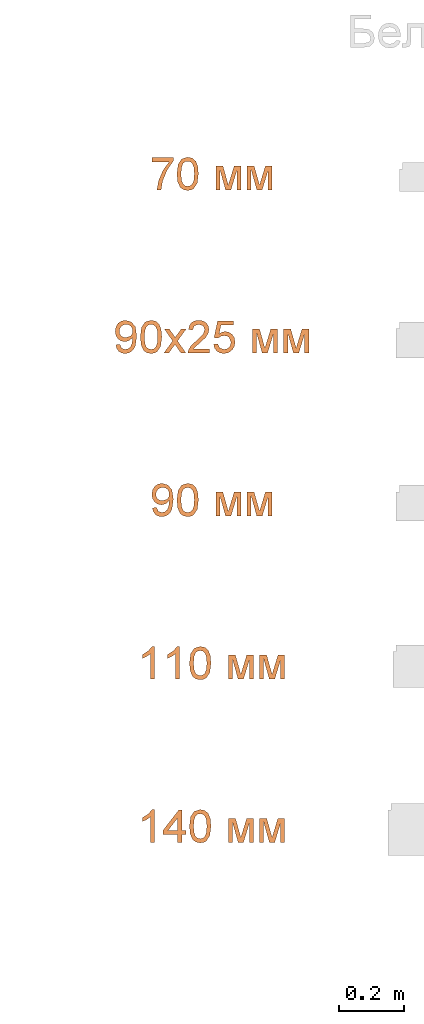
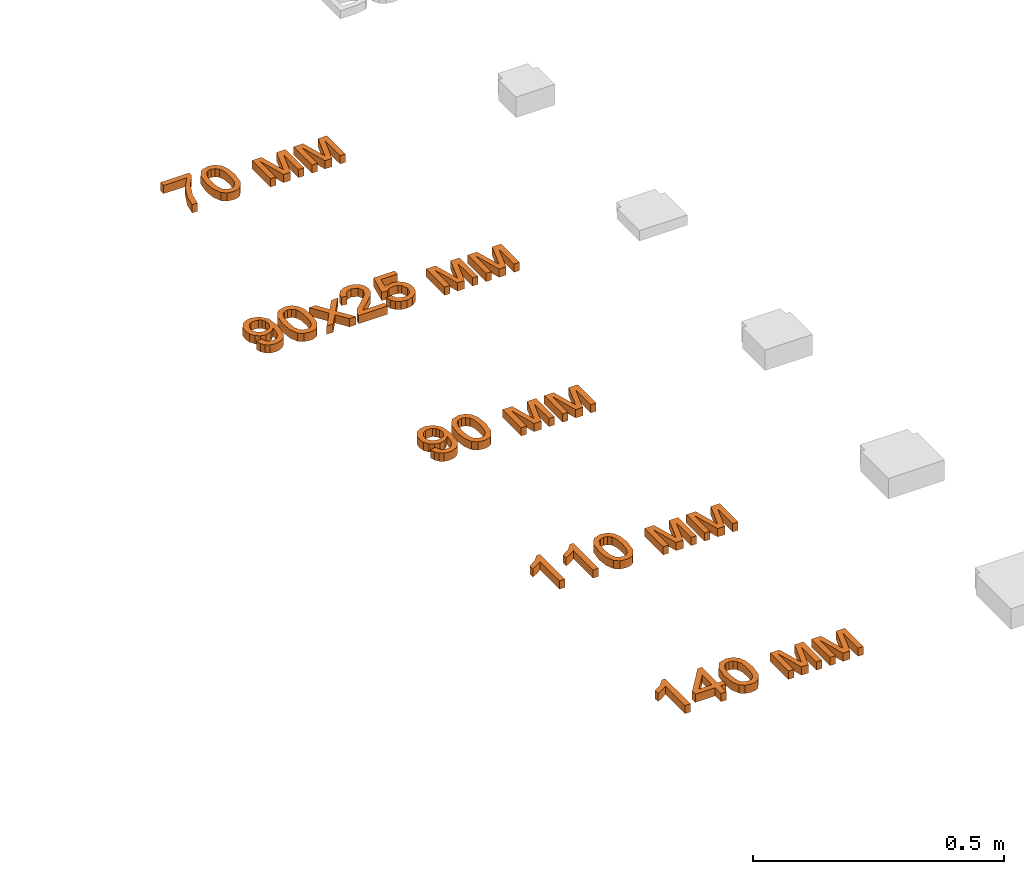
# One storey, part 36 of 87: 5 proxies.
"""IFC2X3 building model written with IfcOpenShell, lengths in millimetres."""

from ifc_helpers import new_model, entity, si_unit, converted_unit, derived_unit, direction, frame, origin, place, context, subcontext, project, spatial, polyline, outline, extrude, element, save


model = new_model("IFC2X3")

# Units and contexts
model_context = context("Model", 3, precision=0.01, world=origin(), true_north=direction((6.12303176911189e-17, 1.0)))
body_context = subcontext(model_context, "Body", "Model", "MODEL_VIEW")
ifc_project = project(units=[si_unit("LENGTHUNIT", "METRE", prefix="MILLI"), si_unit("AREAUNIT", "SQUARE_METRE"), si_unit("VOLUMEUNIT", "CUBIC_METRE"), converted_unit("PLANEANGLEUNIT", "DEGREE", entity("IfcRatioMeasure", 0.0174532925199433), si_unit("PLANEANGLEUNIT", "RADIAN"), dimensions=[0, 0, 0, 0, 0, 0, 0]), si_unit("MASSUNIT", "GRAM", prefix="KILO"), derived_unit("MASSDENSITYUNIT", [(si_unit("MASSUNIT", "GRAM", prefix="KILO"), 1), (si_unit("LENGTHUNIT", "METRE"), -3)]), si_unit("TIMEUNIT", "SECOND"), si_unit("FREQUENCYUNIT", "HERTZ"), si_unit("THERMODYNAMICTEMPERATUREUNIT", "DEGREE_CELSIUS"), derived_unit("THERMALTRANSMITTANCEUNIT", [(si_unit("MASSUNIT", "GRAM", prefix="KILO"), 1), (si_unit("THERMODYNAMICTEMPERATUREUNIT", "KELVIN"), -1), (si_unit("TIMEUNIT", "SECOND"), -3)]), derived_unit("VOLUMETRICFLOWRATEUNIT", [(si_unit("LENGTHUNIT", "METRE"), 3), (si_unit("TIMEUNIT", "SECOND"), -1)]), si_unit("ELECTRICCURRENTUNIT", "AMPERE"), si_unit("ELECTRICVOLTAGEUNIT", "VOLT"), si_unit("POWERUNIT", "WATT"), si_unit("FORCEUNIT", "NEWTON", prefix="KILO"), si_unit("ILLUMINANCEUNIT", "LUX"), si_unit("LUMINOUSFLUXUNIT", "LUMEN"), si_unit("LUMINOUSINTENSITYUNIT", "CANDELA"), derived_unit("USERDEFINED", [(si_unit("MASSUNIT", "GRAM", prefix="KILO"), -1), (si_unit("LENGTHUNIT", "METRE"), -2), (si_unit("TIMEUNIT", "SECOND"), 3), (si_unit("LUMINOUSFLUXUNIT", "LUMEN"), 1)]), derived_unit("LINEARVELOCITYUNIT", [(si_unit("LENGTHUNIT", "METRE"), 1), (si_unit("TIMEUNIT", "SECOND"), -1)]), si_unit("PRESSUREUNIT", "PASCAL"), derived_unit("USERDEFINED", [(si_unit("LENGTHUNIT", "METRE"), -2), (si_unit("MASSUNIT", "GRAM", prefix="KILO"), 1), (si_unit("TIMEUNIT", "SECOND"), -2)])], contexts=[model_context])

# Site, building, storey
site_placement = place(None, origin())
site = spatial("IfcSite", under=ifc_project, at=site_placement, Name="Default", CompositionType="ELEMENT")
building_placement = place(site_placement, origin())
building = spatial("IfcBuilding", under=site, at=building_placement, Name="Наименование здания", CompositionType="ELEMENT")
storey_placement = place(building_placement, origin())
storey = spatial("IfcBuildingStorey", under=building, at=storey_placement, Name="Этаж 01", CompositionType="ELEMENT", Elevation=0.0)

# Proxies
proxy_1_placement = place(storey_placement, origin())
element("IfcBuildingElementProxy", 1, at=proxy_1_placement, inside=storey, Name="Текст модели:100 мм Arial", ObjectType="Текст модели:100 мм Arial", context=body_context, shape_type="SweptSolid", body=[
    extrude(outline(polyline([(-33.1249866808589, -28.4339338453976), (-33.1249866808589, -40.9909726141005), (32.7994668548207, -40.9909726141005), (32.7994668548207, -30.8374295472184), (14.0987987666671, -3.82262836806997), (-0.211810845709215, 30.5988636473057), (-4.87164945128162, 57.8957076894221), (-17.4286882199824, 57.8957076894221), (-12.4377558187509, 29.568794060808), (1.25971713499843, -2.44920225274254), (20.2424280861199, -28.4339338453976), (-33.1249866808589, -28.4339338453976)])), frame((12235.1846956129, -21608.5531781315, 0.0), z_axis=(0.0, 0.0, -1.0), x_axis=(1.0, 0.0, 0.0)), (0.0, 0.0, -1.0), 20.0),
    extrude(outline(polyline([(-7.02884310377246, -33.3490673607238), (17.5323805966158, -33.3490673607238), (35.1984171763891, -27.6137612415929), (43.3439841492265, -18.487651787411), (47.0516941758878, -5.75150665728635), (46.7162020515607, 4.48638208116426), (43.4465778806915, 13.0955287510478), (27.9444305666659, 25.6659118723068), (-0.314338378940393, 32.2325535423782), (-24.0296505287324, 32.3678288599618), (-39.4143020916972, 28.0260881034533), (-49.7293680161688, 18.9002174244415), (-54.4436715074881, 4.63998875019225), (-50.8676582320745, -14.130105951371), (-35.4058547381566, -26.733339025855), (-7.02884310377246, -33.3490673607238)]), holes=[polyline([(-5.77428774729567, -20.8548320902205), (-25.015764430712, -17.3562860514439), (-36.7257089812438, -11.5717922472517), (-41.096258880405, -4.77599682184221), (-41.9669219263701, 3.21464792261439), (-39.2244253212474, 11.2791292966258), (-32.8654063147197, 17.2229259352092), (-20.9698370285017, 20.2947501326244), (-1.61768958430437, 19.7433141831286), (17.8514140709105, 16.2707701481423), (28.7803640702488, 10.7141596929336), (33.5546988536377, 3.61815959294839), (34.5599568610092, -4.47255337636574), (31.9421230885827, -12.1923199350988), (25.8471825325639, -18.1754808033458), (14.0250679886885, -21.402747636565), (-5.77428774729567, -20.8548320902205)])]), frame((12312.8631089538, -21620.6257088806, 0.0), z_axis=(0.0, 0.0, 1.0), x_axis=(0.101851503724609, -0.994799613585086, 0.0)), (0.0, 0.0, 1.0), 20.0),
    extrude(outline(polyline([(-40.5839870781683, -38.4502715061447), (33.1886156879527, -38.4502715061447), (33.1886156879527, -25.893232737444), (-29.0570178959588, -25.893232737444), (33.1886156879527, -8.6273044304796), (33.1886156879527, 7.85380895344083), (-26.2120637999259, 25.9045521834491), (33.1886156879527, 25.9045521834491), (33.1886156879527, 38.4615909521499), (-40.5839870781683, 38.4615909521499), (-40.5839870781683, 17.7620973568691), (18.4733358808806, -0.190544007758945), (-40.5839870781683, -16.8433356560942), (-40.5839870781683, -38.4502715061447)])), frame((12436.7137111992, -21633.260270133, 0.0), z_axis=(0.0, 0.0, 1.0), x_axis=(0.0, -1.0, 0.0)), (0.0, 0.0, 1.0), 20.0),
    extrude(outline(polyline([(-40.5839870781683, -38.4502715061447), (33.1886156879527, -38.4502715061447), (33.1886156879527, -25.893232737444), (-29.0570178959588, -25.893232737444), (33.1886156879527, -8.6273044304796), (33.1886156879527, 7.85380895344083), (-26.2120637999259, 25.904552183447), (33.1886156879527, 25.904552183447), (33.1886156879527, 38.4615909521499), (-40.5839870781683, 38.4615909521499), (-40.5839870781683, 17.7620973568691), (18.4733358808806, -0.190544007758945), (-40.5839870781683, -16.8433356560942), (-40.5839870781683, -38.4502715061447)])), frame((12532.4611318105, -21633.260270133, 0.0), z_axis=(0.0, 0.0, 1.0), x_axis=(0.0, -1.0, 0.0)), (0.0, 0.0, 1.0), 20.0),
])
proxy_2_placement = place(storey_placement, origin())
element("IfcBuildingElementProxy", 2, at=proxy_2_placement, inside=storey, Name="Текст модели:100 мм Arial", ObjectType="Текст модели:100 мм Arial", context=body_context, shape_type="SweptSolid", body=[
    extrude(outline(polyline([(5.58296908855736, -31.785950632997), (17.2387167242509, -31.785950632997), (26.9216142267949, -28.1739915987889), (34.2072820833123, -21.2554963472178), (38.6713407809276, -11.3358876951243), (39.9245387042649, -0.903731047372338), (37.9450282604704, 8.92661895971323), (32.7793953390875, 17.8190246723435), (24.4742258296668, 25.4373484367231), (-3.90517077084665, 37.3659164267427), (-32.1440557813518, 40.5619140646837), (-49.7769073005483, 32.5319597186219), (-59.4683269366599, 16.6032994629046), (-60.4499889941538, 4.02951589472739), (-56.4016296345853, -7.53444362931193), (-47.83625888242, -16.802666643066), (-35.2668867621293, -22.4892406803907), (-21.9841856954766, -23.8222776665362), (-10.3310965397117, -20.283271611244), (-1.40106329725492, -12.8047998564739), (3.71247002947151, -2.31943974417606), (3.73902096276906, 11.9281903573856), (-2.85997612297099, 24.0883984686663), (-0.471643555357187, 23.5260231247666), (13.1334133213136, 18.0099957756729), (22.615889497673, 11.2224941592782), (27.007982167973, 2.91452909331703), (26.6924060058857, -7.52395807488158), (20.3410079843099, -16.8945474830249), (7.30988926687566, -19.2495752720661), (5.58296908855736, -31.785950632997)]), holes=[polyline([(-21.7672208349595, 29.1433710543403), (-13.9803799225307, 25.592244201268), (-8.91107638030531, 19.8291378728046), (-7.4746457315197, 4.45415101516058), (-10.9717321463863, -3.43916536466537), (-16.5473789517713, -8.7331221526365), (-23.575813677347, -11.1761402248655), (-31.4312638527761, -10.5166404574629), (-39.4119601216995, -6.85973803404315), (-44.9206699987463, -0.81731230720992), (-47.5297596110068, 6.83624740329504), (-46.8115950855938, 15.3265517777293), (-43.3781823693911, 22.7799280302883), (-37.714836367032, 27.7965691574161), (-30.3387761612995, 30.0324064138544), (-21.7672208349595, 29.1433710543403)])]), frame((12120.666226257, -22127.7314518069, 0.0), z_axis=(0.0, 0.0, 1.0), x_axis=(0.258284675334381, -0.966068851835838, 0.0)), (0.0, 0.0, 1.0), 20.0),
    extrude(outline(polyline([(-7.02884310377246, -33.3490673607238), (17.5323805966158, -33.3490673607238), (35.1984171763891, -27.6137612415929), (43.3439841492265, -18.487651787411), (47.0516941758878, -5.75150665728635), (46.7162020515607, 4.48638208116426), (43.4465778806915, 13.0955287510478), (27.9444305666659, 25.6659118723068), (-0.314338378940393, 32.2325535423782), (-24.0296505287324, 32.3678288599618), (-39.4143020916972, 28.0260881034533), (-49.7293680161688, 18.9002174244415), (-54.4436715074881, 4.63998875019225), (-50.8676582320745, -14.130105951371), (-35.4058547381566, -26.733339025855), (-7.02884310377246, -33.3490673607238)]), holes=[polyline([(-5.77428774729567, -20.8548320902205), (-25.015764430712, -17.3562860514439), (-36.7257089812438, -11.5717922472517), (-41.096258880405, -4.77599682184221), (-41.9669219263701, 3.21464792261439), (-39.2244253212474, 11.2791292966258), (-32.8654063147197, 17.2229259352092), (-20.9698370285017, 20.2947501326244), (-1.61768958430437, 19.7433141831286), (17.8514140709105, 16.2707701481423), (28.7803640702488, 10.7141596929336), (33.5546988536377, 3.61815959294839), (34.5599568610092, -4.47255337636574), (31.9421230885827, -12.1923199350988), (25.8471825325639, -18.1754808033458), (14.0250679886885, -21.402747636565), (-5.77428774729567, -20.8548320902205)])]), frame((12200.6345749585, -22120.6257088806, 0.0), z_axis=(0.0, 0.0, 1.0), x_axis=(0.101851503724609, -0.994799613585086, 0.0)), (0.0, 0.0, 1.0), 20.0),
    extrude(outline(polyline([(-34.530221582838, -38.4265006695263), (-19.422534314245, -38.4265006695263), (-0.341721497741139, -12.061624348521), (2.47870713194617, -16.1328517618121), (17.8561745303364, -38.4265006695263), (32.9638617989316, -38.4265006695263), (7.40832586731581, -1.34399555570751), (33.944880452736, 35.3461020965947), (18.8371931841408, 35.3461020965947), (4.95577923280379, 16.1671874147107), (0.0261604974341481, 9.34910777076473), (-5.66374769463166, 17.6877663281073), (-17.8529044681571, 35.3461020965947), (-32.9605917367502, 35.3461020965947), (-7.6993614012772, -1.34399555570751), (-34.530221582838, -38.4265006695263)])), frame((12273.476231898, -22128.0223851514, 0.0)), (0.0, 0.0, 1.0), 20.0),
    extrude(outline(polyline([(-32.385878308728, -45.1669477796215), (-32.385878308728, -57.7239865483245), (33.5385752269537, -57.7239865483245), (32.1896745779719, -49.0664969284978), (24.5622545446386, -35.7369059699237), (8.84143061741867, -21.1810416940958), (-12.8390816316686, -0.260818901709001), (-18.2592096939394, 13.9639515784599), (-13.1456499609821, 25.4786580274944), (0.208466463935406, 30.1752848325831), (14.1266686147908, 25.5890226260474), (19.4119066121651, 12.9093565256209), (31.9689453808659, 14.4789863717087), (28.9247218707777, 26.6252235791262), (22.3426998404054, 35.4973110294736), (12.5662358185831, 40.9235704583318), (-0.0613136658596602, 42.732323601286), (-12.7808336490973, 40.721235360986), (-22.5389035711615, 34.6879706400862), (-28.746912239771, 25.6748617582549), (-30.8162484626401, 14.7242410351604), (-28.5844310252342, 2.81712712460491), (-21.1654774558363, -9.49465698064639), (-3.1760478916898, -26.6992716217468), (11.2694517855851, -38.7780637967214), (16.9348345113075, -45.1669477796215), (-32.385878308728, -45.1669477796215)])), frame((12346.2571883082, -22108.7248992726, 0.0), z_axis=(0.0, 0.0, -1.0), x_axis=(-1.0, 0.0, 0.0)), (0.0, 0.0, -1.0), 20.0),
    extrude(outline(polyline([(3.81439562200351, -37.2548959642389), (15.7323946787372, -37.2548959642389), (26.1588137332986, -33.0579698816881), (34.2921694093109, -25.0537205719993), (39.3309783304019, -13.631750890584), (40.221928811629, 1.43409098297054), (34.3991305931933, 14.6815107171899), (25.5350217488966, 23.1481891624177), (13.9054384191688, 28.2770976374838), (0.912111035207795, 29.4702838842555), (-10.7159258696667, 25.7768606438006), (-19.7427074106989, 18.0989984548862), (-24.9322687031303, 7.33886785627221), (-25.5937300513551, -2.21124798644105), (-22.63702408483, -12.2793380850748), (-47.9924930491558, 0.0204883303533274), (-38.0977082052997, 37.2324069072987), (-50.2330599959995, 40.4592412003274), (-62.7370428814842, -6.56524698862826), (-15.502196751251, -30.4943712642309), (-10.7584434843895, -18.7623737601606), (-14.4216298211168, -10.492232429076), (-13.6981616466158, 0.722667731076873), (-9.98738154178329, 9.35727561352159), (-4.32553373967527, 14.6878856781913), (11.4370636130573, 15.9400687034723), (19.7481682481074, 12.2772427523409), (25.4355726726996, 6.40632241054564), (28.0665145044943, -1.27212018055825), (27.2082313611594, -10.357512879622), (19.6530635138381, -21.9256319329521), (5.52431094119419, -24.7161898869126), (3.81439562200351, -37.2548959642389)])), frame((12426.2237167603, -22126.5053317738, 0.0), z_axis=(0.0, 0.0, 1.0), x_axis=(0.256974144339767, -0.966418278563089, 0.0)), (0.0, 0.0, 1.0), 20.0),
    extrude(outline(polyline([(-40.5839870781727, -38.4502715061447), (33.1886156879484, -38.4502715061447), (33.1886156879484, -25.8932327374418), (-29.0570178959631, -25.8932327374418), (33.1886156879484, -8.6273044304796), (33.1886156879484, 7.85380895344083), (-26.2120637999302, 25.9045521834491), (33.1886156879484, 25.9045521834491), (33.1886156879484, 38.4615909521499), (-40.5839870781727, 38.4615909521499), (-40.5839870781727, 17.7620973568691), (18.4733358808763, -0.190544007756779), (-40.5839870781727, -16.8433356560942), (-40.5839870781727, -38.4502715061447)])), frame((12548.9422451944, -22133.260270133, 0.0), z_axis=(0.0, 0.0, 1.0), x_axis=(0.0, -1.0, 0.0)), (0.0, 0.0, 1.0), 20.0),
    extrude(outline(polyline([(-40.5839870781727, -38.4502715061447), (33.1886156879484, -38.4502715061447), (33.1886156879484, -25.893232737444), (-29.0570178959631, -25.893232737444), (33.1886156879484, -8.6273044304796), (33.1886156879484, 7.85380895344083), (-26.2120637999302, 25.9045521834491), (33.1886156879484, 25.9045521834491), (33.1886156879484, 38.4615909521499), (-40.5839870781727, 38.4615909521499), (-40.5839870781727, 17.7620973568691), (18.4733358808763, -0.190544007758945), (-40.5839870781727, -16.8433356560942), (-40.5839870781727, -38.4502715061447)])), frame((12644.6896658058, -22133.260270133, 0.0), z_axis=(0.0, 0.0, 1.0), x_axis=(0.0, -1.0, 0.0)), (0.0, 0.0, 1.0), 20.0),
])
proxy_3_placement = place(storey_placement, origin())
element("IfcBuildingElementProxy", 3, at=proxy_3_placement, inside=storey, Name="Текст модели:100 мм Arial", ObjectType="Текст модели:100 мм Arial", context=body_context, shape_type="SweptSolid", body=[
    extrude(outline(polyline([(5.58296908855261, -31.785950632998), (17.2387167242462, -31.785950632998), (26.9216142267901, -28.1739915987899), (34.2072820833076, -21.2554963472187), (38.6713407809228, -11.3358876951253), (39.9245387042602, -0.903731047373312), (37.9450282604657, 8.92661895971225), (32.7793953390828, 17.8190246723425), (24.4742258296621, 25.4373484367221), (-3.90517077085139, 37.3659164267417), (-32.1440557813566, 40.5619140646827), (-49.776907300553, 32.5319597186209), (-59.4683269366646, 16.6032994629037), (-60.4499889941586, 4.02951589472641), (-56.40162963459, -7.5344436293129), (-47.8362588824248, -16.802666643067), (-35.2668867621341, -22.4892406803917), (-21.9841856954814, -23.8222776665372), (-10.3310965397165, -20.283271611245), (-1.40106329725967, -12.8047998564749), (3.71247002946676, -2.31943974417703), (3.73902096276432, 11.9281903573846), (-2.85997612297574, 24.0883984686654), (-0.471643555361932, 23.5260231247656), (13.1334133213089, 18.0099957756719), (22.6158894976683, 11.2224941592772), (27.0079821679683, 2.91452909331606), (26.692406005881, -7.52395807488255), (20.3410079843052, -16.8945474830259), (7.30988926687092, -19.2495752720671), (5.58296908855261, -31.785950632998)]), holes=[polyline([(-21.7672208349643, 29.1433710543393), (-13.9803799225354, 25.592244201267), (-8.91107638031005, 19.8291378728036), (-7.47464573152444, 4.4541510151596), (-10.9717321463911, -3.43916536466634), (-16.5473789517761, -8.73312215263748), (-23.5758136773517, -11.1761402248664), (-31.4312638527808, -10.5166404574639), (-39.4119601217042, -6.85973803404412), (-44.920669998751, -0.817312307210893), (-47.5297596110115, 6.83624740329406), (-46.8115950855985, 15.3265517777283), (-43.3781823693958, 22.7799280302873), (-37.7148363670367, 27.7965691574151), (-30.3387761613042, 30.0324064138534), (-21.7672208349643, 29.1433710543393)])]), frame((12232.8947602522, -22627.7314518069, 0.0), z_axis=(0.0, 0.0, 1.0), x_axis=(0.258284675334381, -0.966068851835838, 0.0)), (0.0, 0.0, 1.0), 20.0),
    extrude(outline(polyline([(-7.02884310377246, -33.3490673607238), (17.5323805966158, -33.3490673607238), (35.1984171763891, -27.6137612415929), (43.3439841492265, -18.487651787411), (47.0516941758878, -5.75150665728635), (46.7162020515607, 4.48638208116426), (43.4465778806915, 13.0955287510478), (27.9444305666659, 25.6659118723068), (-0.314338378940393, 32.2325535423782), (-24.0296505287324, 32.3678288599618), (-39.4143020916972, 28.0260881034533), (-49.7293680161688, 18.9002174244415), (-54.4436715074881, 4.63998875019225), (-50.8676582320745, -14.130105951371), (-35.4058547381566, -26.733339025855), (-7.02884310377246, -33.3490673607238)]), holes=[polyline([(-5.77428774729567, -20.8548320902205), (-25.015764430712, -17.3562860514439), (-36.7257089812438, -11.5717922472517), (-41.096258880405, -4.77599682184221), (-41.9669219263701, 3.21464792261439), (-39.2244253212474, 11.2791292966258), (-32.8654063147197, 17.2229259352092), (-20.9698370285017, 20.2947501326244), (-1.61768958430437, 19.7433141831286), (17.8514140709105, 16.2707701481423), (28.7803640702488, 10.7141596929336), (33.5546988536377, 3.61815959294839), (34.5599568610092, -4.47255337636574), (31.9421230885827, -12.1923199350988), (25.8471825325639, -18.1754808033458), (14.0250679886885, -21.402747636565), (-5.77428774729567, -20.8548320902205)])]), frame((12312.8631089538, -22620.6257088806, 0.0), z_axis=(0.0, 0.0, 1.0), x_axis=(0.101851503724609, -0.994799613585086, 0.0)), (0.0, 0.0, 1.0), 20.0),
    extrude(outline(polyline([(-40.5839870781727, -38.4502715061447), (33.1886156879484, -38.4502715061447), (33.1886156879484, -25.893232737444), (-29.0570178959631, -25.893232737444), (33.1886156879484, -8.6273044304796), (33.1886156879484, 7.85380895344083), (-26.2120637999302, 25.9045521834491), (33.1886156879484, 25.9045521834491), (33.1886156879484, 38.4615909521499), (-40.5839870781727, 38.4615909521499), (-40.5839870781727, 17.7620973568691), (18.4733358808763, -0.190544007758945), (-40.5839870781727, -16.8433356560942), (-40.5839870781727, -38.4502715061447)])), frame((12436.7137111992, -22633.260270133, 0.0), z_axis=(0.0, 0.0, 1.0), x_axis=(0.0, -1.0, 0.0)), (0.0, 0.0, 1.0), 20.0),
    extrude(outline(polyline([(-40.5839870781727, -38.4502715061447), (33.1886156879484, -38.4502715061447), (33.1886156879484, -25.893232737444), (-29.0570178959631, -25.893232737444), (33.1886156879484, -8.6273044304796), (33.1886156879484, 7.85380895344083), (-26.2120637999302, 25.904552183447), (33.1886156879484, 25.904552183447), (33.1886156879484, 38.4615909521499), (-40.5839870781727, 38.4615909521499), (-40.5839870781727, 17.7620973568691), (18.4733358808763, -0.190544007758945), (-40.5839870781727, -16.8433356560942), (-40.5839870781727, -38.4502715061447)])), frame((12532.4611318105, -22633.260270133, 0.0), z_axis=(0.0, 0.0, 1.0), x_axis=(0.0, -1.0, 0.0)), (0.0, 0.0, 1.0), 20.0),
])
proxy_4_placement = place(storey_placement, origin())
element("IfcBuildingElementProxy", 4, at=proxy_4_placement, inside=storey, Name="Текст модели:100 мм Arial", ObjectType="Текст модели:100 мм Arial", context=body_context, shape_type="SweptSolid", body=[
    extrude(outline(polyline([(-63.8793021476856, -16.9184842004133), (36.5770080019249, -16.9184842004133), (36.5770080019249, -8.82508030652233), (23.2106288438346, 2.34626961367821), (11.4629304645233, 20.7526321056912), (-0.407395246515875, 20.7526321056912), (5.93243780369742, 7.53340574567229), (14.4059864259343, -4.36144543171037), (-63.8793021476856, -4.36144543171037), (-63.8793021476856, -16.9184842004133)])), frame((12193.7741888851, -23102.5695836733, 0.0), z_axis=(0.0, 0.0, 1.0), x_axis=(0.0, 1.0, 0.0)), (0.0, 0.0, 1.0), 20.0),
    extrude(outline(polyline([(-63.8793021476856, -16.9184842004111), (36.5770080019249, -16.9184842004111), (36.5770080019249, -8.82508030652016), (23.2106288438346, 2.34626961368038), (11.4629304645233, 20.7526321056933), (-0.407395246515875, 20.7526321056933), (5.93243780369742, 7.53340574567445), (14.4059864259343, -4.3614454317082), (-63.8793021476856, -4.3614454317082), (-63.8793021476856, -16.9184842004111)])), frame((12270.6860513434, -23102.5695836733, 0.0), z_axis=(0.0, 0.0, 1.0), x_axis=(0.0, 1.0, 0.0)), (0.0, 0.0, 1.0), 20.0),
    extrude(outline(polyline([(-7.02884310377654, -33.3490673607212), (17.5323805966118, -33.3490673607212), (35.198417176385, -27.6137612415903), (43.3439841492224, -18.4876517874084), (47.0516941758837, -5.75150665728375), (46.7162020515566, 4.48638208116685), (43.4465778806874, 13.0955287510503), (27.9444305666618, 25.6659118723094), (-0.314338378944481, 32.2325535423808), (-24.0296505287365, 32.3678288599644), (-39.4143020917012, 28.0260881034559), (-49.7293680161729, 18.900217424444), (-54.4436715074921, 4.63998875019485), (-50.8676582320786, -14.1301059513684), (-35.4058547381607, -26.7333390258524), (-7.02884310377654, -33.3490673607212)]), holes=[polyline([(-5.77428774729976, -20.8548320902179), (-25.0157644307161, -17.3562860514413), (-36.7257089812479, -11.5717922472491), (-41.0962588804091, -4.77599682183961), (-41.9669219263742, 3.21464792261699), (-39.2244253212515, 11.2791292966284), (-32.8654063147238, 17.2229259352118), (-20.9698370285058, 20.294750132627), (-1.61768958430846, 19.7433141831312), (17.8514140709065, 16.2707701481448), (28.7803640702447, 10.7141596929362), (33.5546988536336, 3.61815959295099), (34.5599568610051, -4.47255337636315), (31.9421230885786, -12.1923199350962), (25.8471825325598, -18.1754808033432), (14.0250679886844, -21.4027476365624), (-5.77428774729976, -20.8548320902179)])]), frame((12351.3190401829, -23120.6257088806, 0.0), z_axis=(0.0, 0.0, 1.0), x_axis=(0.101851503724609, -0.994799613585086, 0.0)), (0.0, 0.0, 1.0), 20.0),
    extrude(outline(polyline([(-40.5839870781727, -38.4502715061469), (33.1886156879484, -38.4502715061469), (33.1886156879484, -25.8932327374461), (-29.0570178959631, -25.8932327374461), (33.1886156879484, -8.62730443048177), (33.1886156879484, 7.85380895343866), (-26.2120637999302, 25.904552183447), (33.1886156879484, 25.904552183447), (33.1886156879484, 38.4615909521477), (-40.5839870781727, 38.4615909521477), (-40.5839870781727, 17.762097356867), (18.4733358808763, -0.19054400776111), (-40.5839870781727, -16.8433356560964), (-40.5839870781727, -38.4502715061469)])), frame((12475.1696424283, -23133.260270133, 0.0), z_axis=(0.0, 0.0, 1.0), x_axis=(0.0, -1.0, 0.0)), (0.0, 0.0, 1.0), 20.0),
    extrude(outline(polyline([(-40.5839870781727, -38.4502715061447), (33.1886156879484, -38.4502715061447), (33.1886156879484, -25.893232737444), (-29.0570178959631, -25.893232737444), (33.1886156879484, -8.6273044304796), (33.1886156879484, 7.85380895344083), (-26.2120637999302, 25.9045521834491), (33.1886156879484, 25.9045521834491), (33.1886156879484, 38.4615909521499), (-40.5839870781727, 38.4615909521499), (-40.5839870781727, 17.7620973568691), (18.4733358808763, -0.190544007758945), (-40.5839870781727, -16.8433356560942), (-40.5839870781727, -38.4502715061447)])), frame((12570.9170630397, -23133.260270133, 0.0), z_axis=(0.0, 0.0, 1.0), x_axis=(0.0, -1.0, 0.0)), (0.0, 0.0, 1.0), 20.0),
])
proxy_5_placement = place(storey_placement, origin())
element("IfcBuildingElementProxy", 5, at=proxy_5_placement, inside=storey, Name="Текст модели:100 мм Arial", ObjectType="Текст модели:100 мм Arial", context=body_context, shape_type="SweptSolid", body=[
    extrude(outline(polyline([(-63.8793021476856, -16.9184842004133), (36.5770080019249, -16.9184842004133), (36.5770080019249, -8.82508030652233), (23.2106288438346, 2.34626961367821), (11.4629304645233, 20.7526321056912), (-0.407395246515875, 20.7526321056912), (5.93243780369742, 7.53340574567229), (14.4059864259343, -4.36144543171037), (-63.8793021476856, -4.36144543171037), (-63.8793021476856, -16.9184842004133)])), frame((12193.7741888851, -23602.5695836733, 0.0), z_axis=(0.0, 0.0, 1.0), x_axis=(0.0, 1.0, 0.0)), (0.0, 0.0, 1.0), 20.0),
    extrude(outline(polyline([(-1.14154897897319, -36.3868737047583), (11.4154897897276, -36.3868737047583), (11.4154897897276, -12.8424260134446), (23.9725285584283, -12.8424260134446), (23.9725285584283, -0.285387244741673), (11.4154897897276, -0.285387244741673), (11.4154897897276, 62.4998065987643), (1.99771071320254, 62.4998065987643), (-46.6608145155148, -0.285387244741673), (-46.6608145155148, -12.8424260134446), (-1.14154897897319, -12.8424260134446), (-1.14154897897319, -36.3868737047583)]), holes=[polyline([(-1.14154897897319, -0.285387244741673), (-31.20977071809, -0.285387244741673), (-1.14154897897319, 38.5139005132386), (-1.14154897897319, -0.285387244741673)])]), frame((12282.4675651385, -23630.0620121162, 0.0)), (0.0, 0.0, 1.0), 20.0),
    extrude(outline(polyline([(-7.02884310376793, -33.3490673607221), (17.5323805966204, -33.3490673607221), (35.1984171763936, -27.6137612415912), (43.343984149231, -18.4876517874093), (47.0516941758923, -5.75150665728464), (46.7162020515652, 4.48638208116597), (43.446577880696, 13.0955287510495), (27.9444305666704, 25.6659118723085), (-0.314338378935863, 32.2325535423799), (-24.0296505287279, 32.3678288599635), (-39.4143020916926, 28.026088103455), (-49.7293680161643, 18.9002174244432), (-54.4436715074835, 4.63998875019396), (-50.8676582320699, -14.1301059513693), (-35.4058547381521, -26.7333390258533), (-7.02884310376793, -33.3490673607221)]), holes=[polyline([(-5.77428774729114, -20.8548320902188), (-25.0157644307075, -17.3562860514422), (-36.7257089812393, -11.57179224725), (-41.0962588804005, -4.77599682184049), (-41.9669219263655, 3.21464792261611), (-39.2244253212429, 11.2791292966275), (-32.8654063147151, 17.2229259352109), (-20.9698370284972, 20.2947501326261), (-1.61768958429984, 19.7433141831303), (17.8514140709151, 16.270770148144), (28.7803640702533, 10.7141596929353), (33.5546988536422, 3.61815959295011), (34.5599568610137, -4.47255337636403), (31.9421230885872, -12.1923199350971), (25.8471825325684, -18.1754808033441), (14.025067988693, -21.4027476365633), (-5.77428774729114, -20.8548320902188)])]), frame((12351.3190401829, -23620.6257088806, 0.0), z_axis=(0.0, 0.0, 1.0), x_axis=(0.101851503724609, -0.994799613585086, 0.0)), (0.0, 0.0, 1.0), 20.0),
    extrude(outline(polyline([(-40.5839870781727, -38.4502715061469), (33.1886156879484, -38.4502715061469), (33.1886156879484, -25.8932327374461), (-29.0570178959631, -25.8932327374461), (33.1886156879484, -8.62730443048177), (33.1886156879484, 7.85380895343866), (-26.2120637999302, 25.904552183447), (33.1886156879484, 25.904552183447), (33.1886156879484, 38.4615909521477), (-40.5839870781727, 38.4615909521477), (-40.5839870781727, 17.762097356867), (18.4733358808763, -0.19054400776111), (-40.5839870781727, -16.8433356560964), (-40.5839870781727, -38.4502715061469)])), frame((12475.1696424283, -23633.260270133, 0.0), z_axis=(0.0, 0.0, 1.0), x_axis=(0.0, -1.0, 0.0)), (0.0, 0.0, 1.0), 20.0),
    extrude(outline(polyline([(-40.5839870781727, -38.4502715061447), (33.1886156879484, -38.4502715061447), (33.1886156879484, -25.893232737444), (-29.0570178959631, -25.893232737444), (33.1886156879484, -8.6273044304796), (33.1886156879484, 7.85380895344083), (-26.2120637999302, 25.9045521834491), (33.1886156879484, 25.9045521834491), (33.1886156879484, 38.4615909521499), (-40.5839870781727, 38.4615909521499), (-40.5839870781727, 17.7620973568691), (18.4733358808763, -0.190544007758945), (-40.5839870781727, -16.8433356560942), (-40.5839870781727, -38.4502715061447)])), frame((12570.9170630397, -23633.260270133, 0.0), z_axis=(0.0, 0.0, 1.0), x_axis=(0.0, -1.0, 0.0)), (0.0, 0.0, 1.0), 20.0),
])

save(model, "model.ifc")
